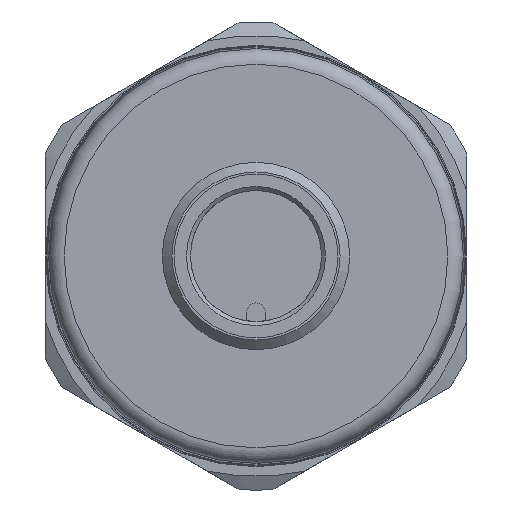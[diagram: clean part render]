
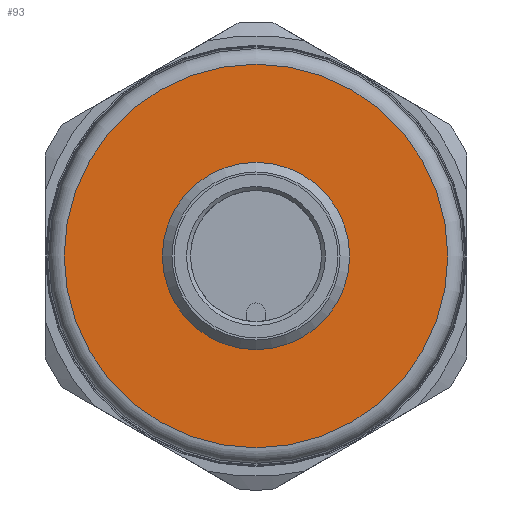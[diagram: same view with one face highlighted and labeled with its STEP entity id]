
A CAD part, left-side view. The second image highlights one B-rep face of the part: STEP entity #93.
In plain terms, the highlighted planar face has unit normal (-1, 0, 0).
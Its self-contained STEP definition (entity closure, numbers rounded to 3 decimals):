
#93 = ADVANCED_FACE( '', ( #199, #200 ), #201, .F. );
#199 = FACE_OUTER_BOUND( '', #400, .T. );
#200 = FACE_BOUND( '', #401, .T. );
#201 = PLANE( '', #402 );
#400 = EDGE_LOOP( '', ( #715 ) );
#401 = EDGE_LOOP( '', ( #716 ) );
#402 = AXIS2_PLACEMENT_3D( '', #717, #718, #719 );
#715 = ORIENTED_EDGE( '', *, *, #1119, .F. );
#716 = ORIENTED_EDGE( '', *, *, #1118, .T. );
#717 = CARTESIAN_POINT( '', ( -49.6, 5.65, 0. ) );
#718 = DIRECTION( '', ( 1., 0., 0. ) );
#719 = DIRECTION( '', ( 0., 0., -1. ) );
#1118 = EDGE_CURVE( '', #1287, #1287, #1288, .T. );
#1119 = EDGE_CURVE( '', #1289, #1289, #1290, .T. );
#1287 = VERTEX_POINT( '', #1604 );
#1288 = CIRCLE( '', #1605, 5.65 );
#1289 = VERTEX_POINT( '', #1606 );
#1290 = CIRCLE( '', #1607, 12.291 );
#1604 = CARTESIAN_POINT( '', ( -49.6, 0., -5.65 ) );
#1605 = AXIS2_PLACEMENT_3D( '', #1851, #1852, #1853 );
#1606 = CARTESIAN_POINT( '', ( -49.6, 0., -12.291 ) );
#1607 = AXIS2_PLACEMENT_3D( '', #1854, #1855, #1856 );
#1851 = CARTESIAN_POINT( '', ( -49.6, 0., 0. ) );
#1852 = DIRECTION( '', ( 1., 0., 0. ) );
#1853 = DIRECTION( '', ( 0., 0., -1. ) );
#1854 = CARTESIAN_POINT( '', ( -49.6, 0., 0. ) );
#1855 = DIRECTION( '', ( 1., 0., 0. ) );
#1856 = DIRECTION( '', ( 0., 0., -1. ) );
